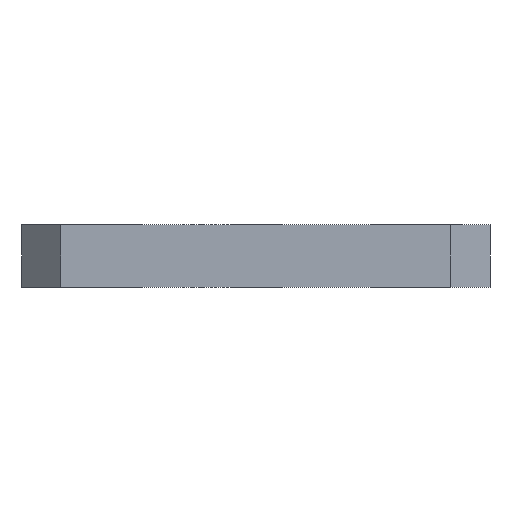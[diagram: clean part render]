
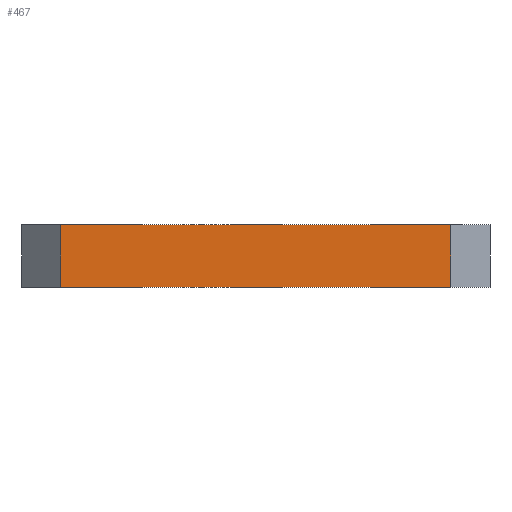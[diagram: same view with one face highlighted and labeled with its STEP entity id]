
A CAD part, front view. The second image highlights one B-rep face of the part: STEP entity #467.
In plain terms, the highlighted planar face has unit normal (0, -1, 0).
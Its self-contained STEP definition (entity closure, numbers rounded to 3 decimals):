
#440=AXIS2_PLACEMENT_3D('Plane Axis2P3D',#437,#438,#439) ;
#104=CARTESIAN_POINT('Vertex',(5.,-85.,8.)) ;
#107=CARTESIAN_POINT('Line Origine',(30.,-85.,8.)) ;
#111=CARTESIAN_POINT('Vertex',(55.,-85.,8.)) ;
#437=CARTESIAN_POINT('Axis2P3D Location',(60.,-85.,8.)) ;
#442=CARTESIAN_POINT('Line Origine',(5.,-85.,4.)) ;
#446=CARTESIAN_POINT('Vertex',(5.,-85.,0.)) ;
#449=CARTESIAN_POINT('Line Origine',(30.,-85.,0.)) ;
#453=CARTESIAN_POINT('Vertex',(55.,-85.,0.)) ;
#456=CARTESIAN_POINT('Line Origine',(55.,-85.,4.)) ;
#108=DIRECTION('Vector Direction',(-1.,0.,0.)) ;
#438=DIRECTION('Axis2P3D Direction',(-0.,-1.,-0.)) ;
#439=DIRECTION('Axis2P3D XDirection',(-1.,0.,0.)) ;
#443=DIRECTION('Vector Direction',(0.,0.,-1.)) ;
#450=DIRECTION('Vector Direction',(-1.,0.,0.)) ;
#457=DIRECTION('Vector Direction',(0.,0.,-1.)) ;
#109=VECTOR('Line Direction',#108,1.) ;
#444=VECTOR('Line Direction',#443,1.) ;
#451=VECTOR('Line Direction',#450,1.) ;
#458=VECTOR('Line Direction',#457,1.) ;
#462=ORIENTED_EDGE('',*,*,#113,.F.) ;
#463=ORIENTED_EDGE('',*,*,#448,.T.) ;
#464=ORIENTED_EDGE('',*,*,#455,.F.) ;
#465=ORIENTED_EDGE('',*,*,#460,.F.) ;
#467=ADVANCED_FACE('\X2\96F64EF651E04F554F53\X0\',(#466),#441,.T.) ;
#113=EDGE_CURVE('',#105,#112,#110,.F.) ;
#448=EDGE_CURVE('',#105,#447,#445,.T.) ;
#455=EDGE_CURVE('',#454,#447,#452,.T.) ;
#460=EDGE_CURVE('',#112,#454,#459,.T.) ;
#461=EDGE_LOOP('',(#462,#463,#464,#465)) ;
#466=FACE_OUTER_BOUND('',#461,.T.) ;
#110=LINE('Line',#107,#109) ;
#445=LINE('Line',#442,#444) ;
#452=LINE('Line',#449,#451) ;
#459=LINE('Line',#456,#458) ;
#441=PLANE('',#440) ;
#105=VERTEX_POINT('',#104) ;
#112=VERTEX_POINT('',#111) ;
#447=VERTEX_POINT('',#446) ;
#454=VERTEX_POINT('',#453) ;
